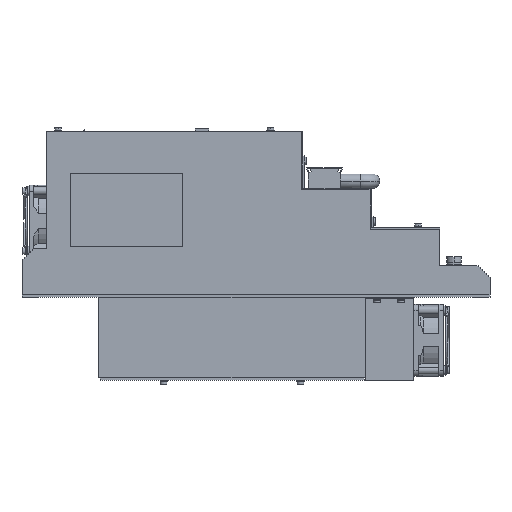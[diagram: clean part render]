
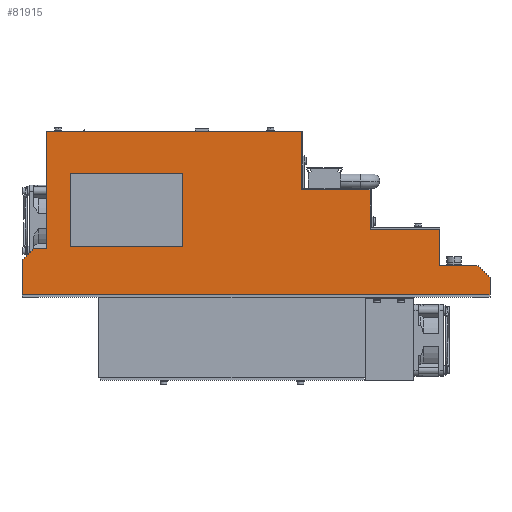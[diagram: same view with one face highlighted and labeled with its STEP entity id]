
A CAD part, left-side view. The second image highlights one B-rep face of the part: STEP entity #81915.
In plain terms, the highlighted planar face has unit normal (-1, 0, 0).
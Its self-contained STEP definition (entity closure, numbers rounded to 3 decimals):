
#15480 = VERTEX_POINT ( 'NONE', #43480 ) ;
#15484 = EDGE_CURVE ( 'NONE', #15480, #15486, #43475, .T. ) ;
#15486 = VERTEX_POINT ( 'NONE', #43470 ) ;
#18552 = VERTEX_POINT ( 'NONE', #48315 ) ;
#18556 = EDGE_CURVE ( 'NONE', #18552, #18558, #48310, .T. ) ;
#18558 = VERTEX_POINT ( 'NONE', #48306 ) ;
#43470 = CARTESIAN_POINT ( 'NONE',  ( -12.5, -340.5, 26. ) ) ;
#43472 = DIRECTION ( 'NONE',  ( 0., 0., -1. ) ) ;
#43473 = VECTOR ( 'NONE', #43472, 1000. ) ;
#43474 = CARTESIAN_POINT ( 'NONE',  ( -12.5, -340.5, 540.55 ) ) ;
#43475 = LINE ( 'NONE', #43474, #43473 ) ;
#43480 = CARTESIAN_POINT ( 'NONE',  ( -12.5, -340.5, 56.5 ) ) ;
#48306 = CARTESIAN_POINT ( 'NONE',  ( -12.5, -225.3, 138. ) ) ;
#48307 = DIRECTION ( 'NONE',  ( 0., -1., 0. ) ) ;
#48308 = VECTOR ( 'NONE', #48307, 1000. ) ;
#48309 = CARTESIAN_POINT ( 'NONE',  ( -12.5, -12.5, 138. ) ) ;
#48310 = LINE ( 'NONE', #48309, #48308 ) ;
#48315 = CARTESIAN_POINT ( 'NONE',  ( -12.5, -12.5, 138. ) ) ;
#81915 = ADVANCED_FACE ( 'NONE', ( #83398, #83396 ), #83391, .F. ) ;
#81917 = EDGE_LOOP ( 'NONE', ( #81919, #82028, #82032, #82038 ) ) ;
#81919 = ORIENTED_EDGE ( 'NONE', *, *, #82022, .F. ) ;
#81975 = EDGE_CURVE ( 'NONE', #81976, #82018, #83555, .T. ) ;
#81976 = VERTEX_POINT ( 'NONE', #83548 ) ;
#81978 = ORIENTED_EDGE ( 'NONE', *, *, #81980, .F. ) ;
#81980 = EDGE_CURVE ( 'NONE', #81982, #81976, #83543, .T. ) ;
#81982 = VERTEX_POINT ( 'NONE', #83536 ) ;
#81983 = ORIENTED_EDGE ( 'NONE', *, *, #81984, .F. ) ;
#81984 = EDGE_CURVE ( 'NONE', #81986, #81982, #83530, .T. ) ;
#81986 = VERTEX_POINT ( 'NONE', #83523 ) ;
#81988 = ORIENTED_EDGE ( 'NONE', *, *, #81990, .T. ) ;
#81990 = EDGE_CURVE ( 'NONE', #81986, #81992, #83518, .T. ) ;
#81992 = VERTEX_POINT ( 'NONE', #83511 ) ;
#81994 = ORIENTED_EDGE ( 'NONE', *, *, #81996, .T. ) ;
#81996 = EDGE_CURVE ( 'NONE', #81992, #81998, #83658, .T. ) ;
#81998 = VERTEX_POINT ( 'NONE', #83650 ) ;
#82000 = ORIENTED_EDGE ( 'NONE', *, *, #82101, .F. ) ;
#82002 = VERTEX_POINT ( 'NONE', #83648 ) ;
#82003 = ORIENTED_EDGE ( 'NONE', *, *, #82005, .T. ) ;
#82005 = EDGE_CURVE ( 'NONE', #82002, #82006, #83643, .T. ) ;
#82006 = VERTEX_POINT ( 'NONE', #83636 ) ;
#82007 = ORIENTED_EDGE ( 'NONE', *, *, #82008, .T. ) ;
#82008 = EDGE_CURVE ( 'NONE', #82006, #82009, #83630, .T. ) ;
#82009 = VERTEX_POINT ( 'NONE', #83623 ) ;
#82010 = ORIENTED_EDGE ( 'NONE', *, *, #82011, .T. ) ;
#82011 = EDGE_CURVE ( 'NONE', #82009, #18558, #83618, .T. ) ;
#82013 = ORIENTED_EDGE ( 'NONE', *, *, #18556, .F. ) ;
#82015 = ORIENTED_EDGE ( 'NONE', *, *, #82017, .T. ) ;
#82017 = EDGE_CURVE ( 'NONE', #18552, #82018, #83608, .T. ) ;
#82018 = VERTEX_POINT ( 'NONE', #83601 ) ;
#82020 = ORIENTED_EDGE ( 'NONE', *, *, #81975, .F. ) ;
#82022 = EDGE_CURVE ( 'NONE', #82024, #82026, #83596, .T. ) ;
#82024 = VERTEX_POINT ( 'NONE', #83589 ) ;
#82026 = VERTEX_POINT ( 'NONE', #83587 ) ;
#82028 = ORIENTED_EDGE ( 'NONE', *, *, #82029, .F. ) ;
#82029 = EDGE_CURVE ( 'NONE', #82030, #82024, #83582, .T. ) ;
#82030 = VERTEX_POINT ( 'NONE', #83733 ) ;
#82032 = ORIENTED_EDGE ( 'NONE', *, *, #82034, .F. ) ;
#82034 = EDGE_CURVE ( 'NONE', #82036, #82030, #83726, .T. ) ;
#82036 = VERTEX_POINT ( 'NONE', #83719 ) ;
#82038 = ORIENTED_EDGE ( 'NONE', *, *, #82039, .F. ) ;
#82039 = EDGE_CURVE ( 'NONE', #82026, #82036, #83714, .T. ) ;
#82040 = EDGE_LOOP ( 'NONE', ( #82041, #82003, #82007, #82010, #82013, #82015, #82020, #81978, #81983, #81988, #81994, #82000, #82103, #82108 ) ) ;
#82041 = ORIENTED_EDGE ( 'NONE', *, *, #82042, .T. ) ;
#82042 = EDGE_CURVE ( 'NONE', #15480, #82002, #83704, .T. ) ;
#82101 = EDGE_CURVE ( 'NONE', #82102, #81998, #83864, .T. ) ;
#82102 = VERTEX_POINT ( 'NONE', #83857 ) ;
#82103 = ORIENTED_EDGE ( 'NONE', *, *, #82105, .F. ) ;
#82105 = EDGE_CURVE ( 'NONE', #15486, #82102, #83851, .T. ) ;
#82108 = ORIENTED_EDGE ( 'NONE', *, *, #15484, .F. ) ;
#83384 = DIRECTION ( 'NONE',  ( 0., 1., 0. ) ) ;
#83386 = DIRECTION ( 'NONE',  ( 1., 0., 0. ) ) ;
#83388 = CARTESIAN_POINT ( 'NONE',  ( -12.5, -12.5, 540.55 ) ) ;
#83389 = AXIS2_PLACEMENT_3D ( 'NONE', #83388, #83386, #83384 ) ;
#83391 = PLANE ( 'NONE',  #83389 ) ;
#83396 = FACE_OUTER_BOUND ( 'NONE', #82040, .T. ) ;
#83398 = FACE_BOUND ( 'NONE', #81917, .T. ) ;
#83511 = CARTESIAN_POINT ( 'NONE',  ( -12.5, -382.5, 2. ) ) ;
#83513 = DIRECTION ( 'NONE',  ( 0., -1., 0. ) ) ;
#83515 = VECTOR ( 'NONE', #83513, 1000. ) ;
#83516 = CARTESIAN_POINT ( 'NONE',  ( -12.5, -382.5, 2. ) ) ;
#83518 = LINE ( 'NONE', #83516, #83515 ) ;
#83523 = CARTESIAN_POINT ( 'NONE',  ( -12.5, 7.5, 2. ) ) ;
#83526 = DIRECTION ( 'NONE',  ( 0., 0., 1. ) ) ;
#83527 = VECTOR ( 'NONE', #83526, 1000. ) ;
#83529 = CARTESIAN_POINT ( 'NONE',  ( -12.5, 7.5, -466.722 ) ) ;
#83530 = LINE ( 'NONE', #83529, #83527 ) ;
#83536 = CARTESIAN_POINT ( 'NONE',  ( -12.5, 7.5, 30.5 ) ) ;
#83538 = DIRECTION ( 'NONE',  ( 0., -0.707, 0.707 ) ) ;
#83540 = VECTOR ( 'NONE', #83538, 1000. ) ;
#83541 = CARTESIAN_POINT ( 'NONE',  ( -12.5, 7.5, 30.5 ) ) ;
#83543 = LINE ( 'NONE', #83541, #83540 ) ;
#83548 = CARTESIAN_POINT ( 'NONE',  ( -12.5, -2.5, 40.5 ) ) ;
#83550 = DIRECTION ( 'NONE',  ( 0., -1., 0. ) ) ;
#83552 = VECTOR ( 'NONE', #83550, 1000. ) ;
#83554 = CARTESIAN_POINT ( 'NONE',  ( -12.5, -12.5, 40.5 ) ) ;
#83555 = LINE ( 'NONE', #83554, #83552 ) ;
#83580 = CARTESIAN_POINT ( 'NONE',  ( -12.5, -32.5, 42. ) ) ;
#83582 = LINE ( 'NONE', #83580, #83737 ) ;
#83587 = CARTESIAN_POINT ( 'NONE',  ( -12.5, -126.5, 103. ) ) ;
#83589 = CARTESIAN_POINT ( 'NONE',  ( -12.5, -126.5, 42. ) ) ;
#83591 = DIRECTION ( 'NONE',  ( 0., 0., 1. ) ) ;
#83593 = VECTOR ( 'NONE', #83591, 1000. ) ;
#83594 = CARTESIAN_POINT ( 'NONE',  ( -12.5, -126.5, 42. ) ) ;
#83596 = LINE ( 'NONE', #83594, #83593 ) ;
#83601 = CARTESIAN_POINT ( 'NONE',  ( -12.5, -12.5, 40.5 ) ) ;
#83603 = DIRECTION ( 'NONE',  ( 0., 0., -1. ) ) ;
#83604 = VECTOR ( 'NONE', #83603, 1000. ) ;
#83607 = CARTESIAN_POINT ( 'NONE',  ( -12.5, -12.5, 540.55 ) ) ;
#83608 = LINE ( 'NONE', #83607, #83604 ) ;
#83613 = DIRECTION ( 'NONE',  ( 0., 0., 1. ) ) ;
#83614 = VECTOR ( 'NONE', #83613, 1000. ) ;
#83616 = CARTESIAN_POINT ( 'NONE',  ( -12.5, -225.3, 89.5 ) ) ;
#83618 = LINE ( 'NONE', #83616, #83614 ) ;
#83623 = CARTESIAN_POINT ( 'NONE',  ( -12.5, -225.3, 89.5 ) ) ;
#83625 = DIRECTION ( 'NONE',  ( 0., 1., 0. ) ) ;
#83627 = VECTOR ( 'NONE', #83625, 1000. ) ;
#83629 = CARTESIAN_POINT ( 'NONE',  ( -12.5, -282.5, 89.5 ) ) ;
#83630 = LINE ( 'NONE', #83629, #83627 ) ;
#83636 = CARTESIAN_POINT ( 'NONE',  ( -12.5, -282.5, 89.5 ) ) ;
#83638 = DIRECTION ( 'NONE',  ( 0., 0., 1. ) ) ;
#83639 = VECTOR ( 'NONE', #83638, 1000. ) ;
#83641 = CARTESIAN_POINT ( 'NONE',  ( -12.5, -282.5, 56.5 ) ) ;
#83643 = LINE ( 'NONE', #83641, #83639 ) ;
#83648 = CARTESIAN_POINT ( 'NONE',  ( -12.5, -282.5, 56.5 ) ) ;
#83650 = CARTESIAN_POINT ( 'NONE',  ( -12.5, -382.5, 16. ) ) ;
#83653 = DIRECTION ( 'NONE',  ( 0., 0., 1. ) ) ;
#83654 = VECTOR ( 'NONE', #83653, 1000. ) ;
#83656 = CARTESIAN_POINT ( 'NONE',  ( -12.5, -382.5, -466.722 ) ) ;
#83658 = LINE ( 'NONE', #83656, #83654 ) ;
#83699 = DIRECTION ( 'NONE',  ( 0., 1., 0. ) ) ;
#83700 = VECTOR ( 'NONE', #83699, 1000. ) ;
#83702 = CARTESIAN_POINT ( 'NONE',  ( -12.5, -340.5, 56.5 ) ) ;
#83704 = LINE ( 'NONE', #83702, #83700 ) ;
#83709 = DIRECTION ( 'NONE',  ( 0., 1., 0. ) ) ;
#83710 = VECTOR ( 'NONE', #83709, 1000. ) ;
#83712 = CARTESIAN_POINT ( 'NONE',  ( -12.5, -32.5, 103. ) ) ;
#83714 = LINE ( 'NONE', #83712, #83710 ) ;
#83719 = CARTESIAN_POINT ( 'NONE',  ( -12.5, -32.5, 103. ) ) ;
#83721 = DIRECTION ( 'NONE',  ( 0., 0., -1. ) ) ;
#83723 = VECTOR ( 'NONE', #83721, 1000. ) ;
#83725 = CARTESIAN_POINT ( 'NONE',  ( -12.5, -32.5, 42. ) ) ;
#83726 = LINE ( 'NONE', #83725, #83723 ) ;
#83733 = CARTESIAN_POINT ( 'NONE',  ( -12.5, -32.5, 42. ) ) ;
#83735 = DIRECTION ( 'NONE',  ( 0., -1., 0. ) ) ;
#83737 = VECTOR ( 'NONE', #83735, 1000. ) ;
#83846 = DIRECTION ( 'NONE',  ( 0., -1., 0. ) ) ;
#83848 = VECTOR ( 'NONE', #83846, 1000. ) ;
#83850 = CARTESIAN_POINT ( 'NONE',  ( -12.5, -340.5, 26. ) ) ;
#83851 = LINE ( 'NONE', #83850, #83848 ) ;
#83857 = CARTESIAN_POINT ( 'NONE',  ( -12.5, -372.5, 26. ) ) ;
#83859 = DIRECTION ( 'NONE',  ( 0., -0.707, -0.707 ) ) ;
#83860 = VECTOR ( 'NONE', #83859, 1000. ) ;
#83863 = CARTESIAN_POINT ( 'NONE',  ( -12.5, -382.5, 16. ) ) ;
#83864 = LINE ( 'NONE', #83863, #83860 ) ;
